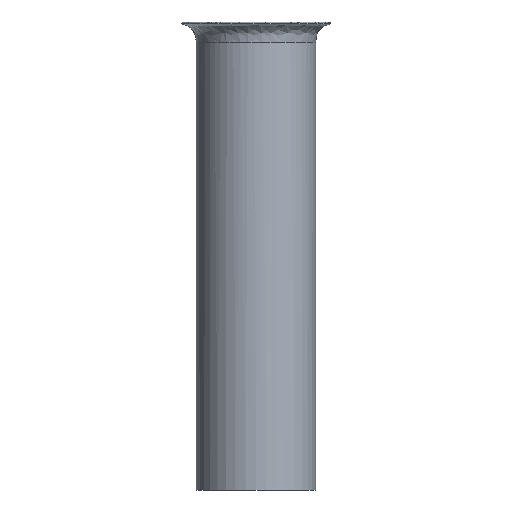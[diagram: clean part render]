
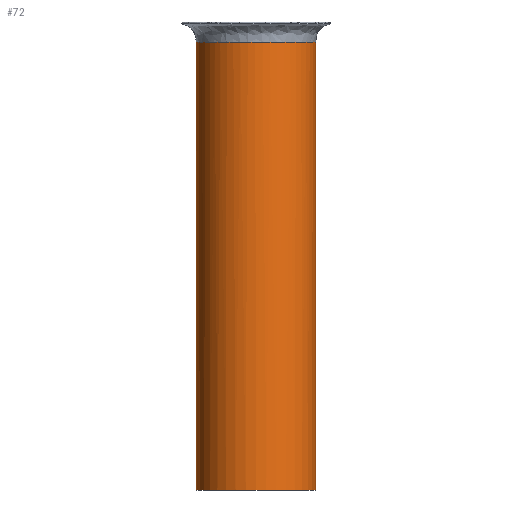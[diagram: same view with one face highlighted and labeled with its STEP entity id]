
A CAD part, front view. The second image highlights one B-rep face of the part: STEP entity #72.
In plain terms, the highlighted cylindrical face has radius 32 mm (diameter 64 mm), a full revolution.
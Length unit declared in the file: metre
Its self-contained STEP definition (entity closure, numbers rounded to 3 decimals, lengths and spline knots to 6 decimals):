
#16=CIRCLE('',#92,0.032);
#18=ORIENTED_EDGE('',*,*,#30,.T.);
#19=ORIENTED_EDGE('',*,*,#31,.F.);
#30=EDGE_CURVE('',#36,#36,#42,.T.);
#31=EDGE_CURVE('',#37,#37,#16,.T.);
#36=VERTEX_POINT('',#129);
#37=VERTEX_POINT('',#131);
#42=B_SPLINE_CURVE_WITH_KNOTS('',3,(#110,#111,#112,#113,#114,#115,#116,
#117,#118,#119,#120,#121,#122,#123,#124,#125,#126,#127,#128),
 .UNSPECIFIED.,.T.,.F.,(1,1,1,1,1,1,1,1,1,1,1,1,1,1,1,1,1,1,1,1,1,1,1),
(-0.1875,-0.125,-0.0625,0.,0.0625,0.125,0.1875,0.25,0.3125,0.375,0.4375,
0.5,0.5625,0.625,0.6875,0.75,0.8125,0.875,0.9375,1.,1.0625,1.125,1.1875),
 .UNSPECIFIED.);
#46=EDGE_LOOP('',(#18));
#47=EDGE_LOOP('',(#19));
#58=FACE_BOUND('',#46,.T.);
#59=FACE_BOUND('',#47,.T.);
#70=CYLINDRICAL_SURFACE('',#91,0.032);
#72=ADVANCED_FACE('',(#58,#59),#70,.T.);
#91=AXIS2_PLACEMENT_3D('',#109,#98,#99);
#92=AXIS2_PLACEMENT_3D('',#130,#100,#101);
#98=DIRECTION('',(0.,0.,-1.));
#99=DIRECTION('',(-1.,0.,0.));
#100=DIRECTION('',(0.,0.,-1.));
#101=DIRECTION('',(-1.,0.,0.));
#109=CARTESIAN_POINT('',(0.,0.,0.041351));
#110=CARTESIAN_POINT('',(0.030334,0.012565,0.239));
#111=CARTESIAN_POINT('',(0.032833,0.,0.239));
#112=CARTESIAN_POINT('',(0.030334,-0.012565,0.239));
#113=CARTESIAN_POINT('',(0.023217,-0.023217,0.239));
#114=CARTESIAN_POINT('',(0.012565,-0.030334,0.239));
#115=CARTESIAN_POINT('',(0.,-0.032833,0.239));
#116=CARTESIAN_POINT('',(-0.012565,-0.030334,0.239));
#117=CARTESIAN_POINT('',(-0.023217,-0.023217,0.239));
#118=CARTESIAN_POINT('',(-0.030334,-0.012565,0.239));
#119=CARTESIAN_POINT('',(-0.032833,0.,0.239));
#120=CARTESIAN_POINT('',(-0.030334,0.012565,0.239));
#121=CARTESIAN_POINT('',(-0.023217,0.023217,0.239));
#122=CARTESIAN_POINT('',(-0.012565,0.030334,0.239));
#123=CARTESIAN_POINT('',(0.,0.032833,0.239));
#124=CARTESIAN_POINT('',(0.012565,0.030334,0.239));
#125=CARTESIAN_POINT('',(0.023217,0.023217,0.239));
#126=CARTESIAN_POINT('',(0.030334,0.012565,0.239));
#127=CARTESIAN_POINT('',(0.032833,0.,0.239));
#128=CARTESIAN_POINT('',(0.030334,-0.012565,0.239));
#129=CARTESIAN_POINT('',(0.032,0.,0.239));
#130=CARTESIAN_POINT('',(0.,0.,0.));
#131=CARTESIAN_POINT('',(-0.032,0.,0.));
